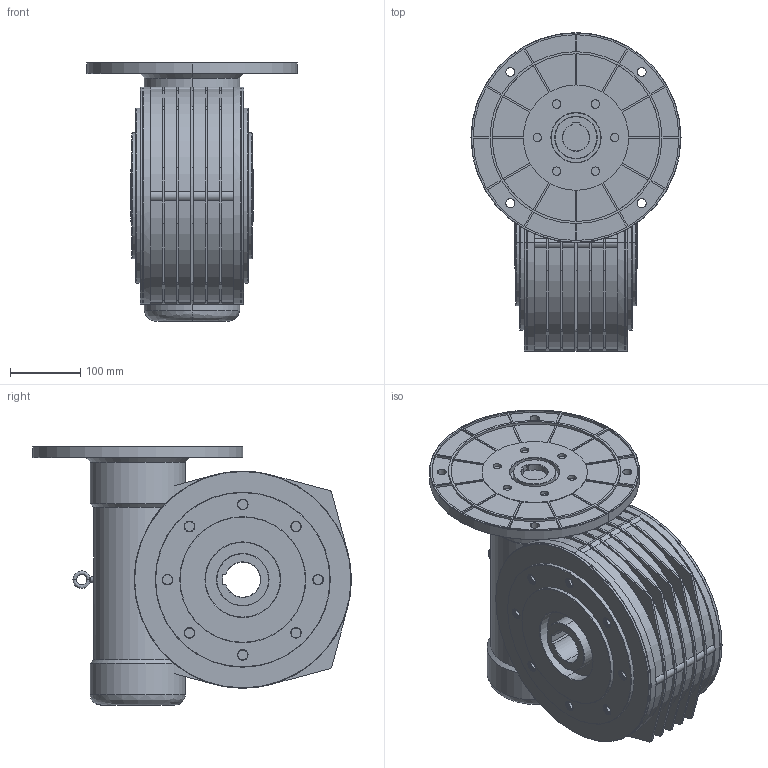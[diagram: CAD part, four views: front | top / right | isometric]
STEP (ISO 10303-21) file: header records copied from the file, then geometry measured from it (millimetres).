
FILE_DESCRIPTION (( 'STEP AP214' ), '1' );
FILE_NAME ('MVF130P 132B5.step', '2020-06-26T09:00:16', ( '' ), ( '' ), 'SwSTEP 2.0', 'SolidWorks 2016', '' );
FILE_SCHEMA (( 'AUTOMOTIVE_DESIGN' ));
Length unit declared in the file: millimetre
Products named in the file (1): MVF130P 132B5
Bounding box: 300 x 455 x 369.5 mm (x, y, z)
Volume: 16798432.8 mm3; surface area: 1031972.8 mm2
Topology: 14 solids, 14 shells, 1408 faces, 3214 edges, 1863 vertices
Faces by surface type: cone 535, cylinder 465, plane 339, bspline 69
Entity records: 55276 total; most frequent: CARTESIAN_POINT 7553, DIRECTION 7097, ORIENTED_EDGE 6428, EDGE_CURVE 3214, AXIS2_PLACEMENT_3D 2683, VERTEX_POINT 1863, LINE 1731, VECTOR 1731
